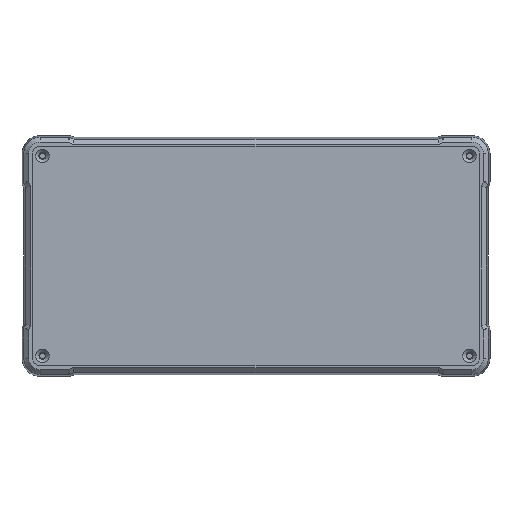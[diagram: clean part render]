
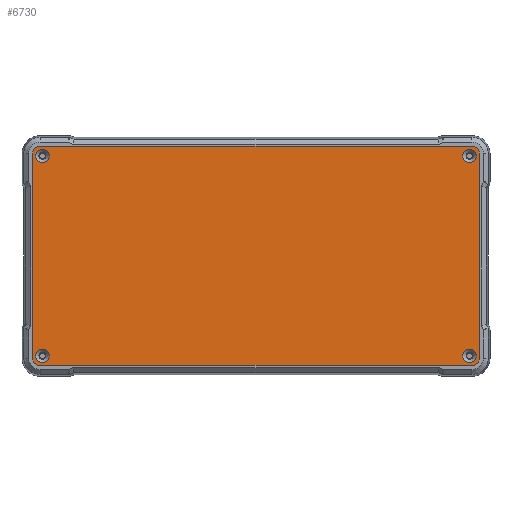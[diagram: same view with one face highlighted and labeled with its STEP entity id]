
A CAD part, top view. The second image highlights one B-rep face of the part: STEP entity #6730.
In plain terms, the highlighted planar face has unit normal (0, 0, 1).
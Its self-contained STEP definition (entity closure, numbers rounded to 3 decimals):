
#133=FACE_BOUND('',#1012,.T.);
#134=FACE_BOUND('',#1013,.T.);
#135=FACE_BOUND('',#1014,.T.);
#136=FACE_BOUND('',#1015,.T.);
#232=PLANE('',#7389);
#620=FACE_OUTER_BOUND('',#1011,.T.);
#1011=EDGE_LOOP('',(#5220,#5221,#5222,#5223,#5224,#5225,#5226,#5227));
#1012=EDGE_LOOP('',(#5228,#5229));
#1013=EDGE_LOOP('',(#5230,#5231));
#1014=EDGE_LOOP('',(#5232,#5233));
#1015=EDGE_LOOP('',(#5234,#5235));
#1503=LINE('',#10849,#2100);
#1506=LINE('',#10857,#2103);
#1509=LINE('',#10865,#2106);
#1512=LINE('',#10872,#2109);
#2100=VECTOR('',#8683,1000.);
#2103=VECTOR('',#8692,1000.);
#2106=VECTOR('',#8701,1000.);
#2109=VECTOR('',#8710,1000.);
#2555=CIRCLE('',#7127,3.);
#2556=CIRCLE('',#7128,3.);
#2557=CIRCLE('',#7130,3.);
#2558=CIRCLE('',#7131,3.);
#2559=CIRCLE('',#7133,3.);
#2560=CIRCLE('',#7134,3.);
#2561=CIRCLE('',#7136,3.);
#2562=CIRCLE('',#7137,3.);
#2707=CIRCLE('',#7378,3.);
#2708=CIRCLE('',#7381,3.);
#2709=CIRCLE('',#7384,3.);
#2710=CIRCLE('',#7387,3.);
#2939=VERTEX_POINT('',#10199);
#2940=VERTEX_POINT('',#10201);
#2941=VERTEX_POINT('',#10205);
#2942=VERTEX_POINT('',#10207);
#2943=VERTEX_POINT('',#10211);
#2944=VERTEX_POINT('',#10213);
#2945=VERTEX_POINT('',#10217);
#2946=VERTEX_POINT('',#10219);
#3163=VERTEX_POINT('',#10842);
#3164=VERTEX_POINT('',#10844);
#3165=VERTEX_POINT('',#10848);
#3166=VERTEX_POINT('',#10852);
#3167=VERTEX_POINT('',#10856);
#3168=VERTEX_POINT('',#10860);
#3169=VERTEX_POINT('',#10864);
#3170=VERTEX_POINT('',#10868);
#3620=EDGE_CURVE('',#2939,#2940,#2555,.T.);
#3621=EDGE_CURVE('',#2940,#2939,#2556,.T.);
#3623=EDGE_CURVE('',#2941,#2942,#2557,.T.);
#3624=EDGE_CURVE('',#2942,#2941,#2558,.T.);
#3626=EDGE_CURVE('',#2943,#2944,#2559,.T.);
#3627=EDGE_CURVE('',#2944,#2943,#2560,.T.);
#3629=EDGE_CURVE('',#2945,#2946,#2561,.T.);
#3630=EDGE_CURVE('',#2946,#2945,#2562,.T.);
#3940=EDGE_CURVE('',#3164,#3163,#2707,.T.);
#3942=EDGE_CURVE('',#3165,#3164,#1503,.T.);
#3944=EDGE_CURVE('',#3165,#3166,#2708,.T.);
#3946=EDGE_CURVE('',#3167,#3166,#1506,.T.);
#3948=EDGE_CURVE('',#3168,#3167,#2709,.T.);
#3950=EDGE_CURVE('',#3169,#3168,#1509,.T.);
#3952=EDGE_CURVE('',#3169,#3170,#2710,.T.);
#3954=EDGE_CURVE('',#3163,#3170,#1512,.T.);
#5220=ORIENTED_EDGE('',*,*,#3940,.T.);
#5221=ORIENTED_EDGE('',*,*,#3954,.T.);
#5222=ORIENTED_EDGE('',*,*,#3952,.F.);
#5223=ORIENTED_EDGE('',*,*,#3950,.T.);
#5224=ORIENTED_EDGE('',*,*,#3948,.T.);
#5225=ORIENTED_EDGE('',*,*,#3946,.T.);
#5226=ORIENTED_EDGE('',*,*,#3944,.F.);
#5227=ORIENTED_EDGE('',*,*,#3942,.T.);
#5228=ORIENTED_EDGE('',*,*,#3621,.F.);
#5229=ORIENTED_EDGE('',*,*,#3620,.F.);
#5230=ORIENTED_EDGE('',*,*,#3624,.F.);
#5231=ORIENTED_EDGE('',*,*,#3623,.F.);
#5232=ORIENTED_EDGE('',*,*,#3627,.F.);
#5233=ORIENTED_EDGE('',*,*,#3626,.F.);
#5234=ORIENTED_EDGE('',*,*,#3630,.F.);
#5235=ORIENTED_EDGE('',*,*,#3629,.F.);
#6730=ADVANCED_FACE('',(#620,#133,#134,#135,#136),#232,.T.);
#7127=AXIS2_PLACEMENT_3D('',#10202,#8008,#8009);
#7128=AXIS2_PLACEMENT_3D('',#10203,#8010,#8011);
#7130=AXIS2_PLACEMENT_3D('',#10208,#8015,#8016);
#7131=AXIS2_PLACEMENT_3D('',#10209,#8017,#8018);
#7133=AXIS2_PLACEMENT_3D('',#10214,#8022,#8023);
#7134=AXIS2_PLACEMENT_3D('',#10215,#8024,#8025);
#7136=AXIS2_PLACEMENT_3D('',#10220,#8029,#8030);
#7137=AXIS2_PLACEMENT_3D('',#10221,#8031,#8032);
#7378=AXIS2_PLACEMENT_3D('',#10845,#8678,#8679);
#7381=AXIS2_PLACEMENT_3D('',#10853,#8687,#8688);
#7384=AXIS2_PLACEMENT_3D('',#10861,#8696,#8697);
#7387=AXIS2_PLACEMENT_3D('',#10869,#8705,#8706);
#7389=AXIS2_PLACEMENT_3D('',#10873,#8711,#8712);
#8008=DIRECTION('center_axis',(0.,0.,1.));
#8009=DIRECTION('ref_axis',(-1.,0.,0.));
#8010=DIRECTION('center_axis',(0.,0.,1.));
#8011=DIRECTION('ref_axis',(-1.,0.,0.));
#8015=DIRECTION('center_axis',(0.,0.,1.));
#8016=DIRECTION('ref_axis',(1.,0.,0.));
#8017=DIRECTION('center_axis',(0.,0.,1.));
#8018=DIRECTION('ref_axis',(1.,0.,0.));
#8022=DIRECTION('center_axis',(0.,0.,1.));
#8023=DIRECTION('ref_axis',(-1.,0.,0.));
#8024=DIRECTION('center_axis',(0.,0.,1.));
#8025=DIRECTION('ref_axis',(-1.,0.,0.));
#8029=DIRECTION('center_axis',(0.,0.,1.));
#8030=DIRECTION('ref_axis',(1.,0.,0.));
#8031=DIRECTION('center_axis',(0.,0.,1.));
#8032=DIRECTION('ref_axis',(1.,0.,0.));
#8678=DIRECTION('center_axis',(0.,0.,1.));
#8679=DIRECTION('ref_axis',(1.,0.,0.));
#8683=DIRECTION('',(-1.,0.,0.));
#8687=DIRECTION('center_axis',(0.,0.,-1.));
#8688=DIRECTION('ref_axis',(-1.,0.,0.));
#8692=DIRECTION('',(0.,1.,0.));
#8696=DIRECTION('center_axis',(0.,0.,1.));
#8697=DIRECTION('ref_axis',(1.,0.,0.));
#8701=DIRECTION('',(1.,0.,0.));
#8705=DIRECTION('center_axis',(0.,0.,-1.));
#8706=DIRECTION('ref_axis',(-1.,0.,0.));
#8710=DIRECTION('',(0.,-1.,0.));
#8711=DIRECTION('center_axis',(0.,0.,1.));
#8712=DIRECTION('ref_axis',(1.,0.,0.));
#10199=CARTESIAN_POINT('',(-97.,-44.,19.6));
#10201=CARTESIAN_POINT('',(-91.,-44.,19.6));
#10202=CARTESIAN_POINT('Origin',(-94.,-44.,19.6));
#10203=CARTESIAN_POINT('Origin',(-94.,-44.,19.6));
#10205=CARTESIAN_POINT('',(91.,-44.,19.6));
#10207=CARTESIAN_POINT('',(97.,-44.,19.6));
#10208=CARTESIAN_POINT('Origin',(94.,-44.,19.6));
#10209=CARTESIAN_POINT('Origin',(94.,-44.,19.6));
#10211=CARTESIAN_POINT('',(91.,44.,19.6));
#10213=CARTESIAN_POINT('',(97.,44.,19.6));
#10214=CARTESIAN_POINT('Origin',(94.,44.,19.6));
#10215=CARTESIAN_POINT('Origin',(94.,44.,19.6));
#10217=CARTESIAN_POINT('',(-97.,44.,19.6));
#10219=CARTESIAN_POINT('',(-91.,44.,19.6));
#10220=CARTESIAN_POINT('Origin',(-94.,44.,19.6));
#10221=CARTESIAN_POINT('Origin',(-94.,44.,19.6));
#10842=CARTESIAN_POINT('',(-98.233,45.233,19.6));
#10844=CARTESIAN_POINT('',(-95.233,48.233,19.6));
#10845=CARTESIAN_POINT('Origin',(-95.233,45.233,19.6));
#10848=CARTESIAN_POINT('',(95.233,48.233,19.6));
#10849=CARTESIAN_POINT('',(95.233,48.233,19.6));
#10852=CARTESIAN_POINT('',(98.233,45.233,19.6));
#10853=CARTESIAN_POINT('Origin',(95.233,45.233,19.6));
#10856=CARTESIAN_POINT('',(98.233,-45.233,19.6));
#10857=CARTESIAN_POINT('',(98.233,-45.233,19.6));
#10860=CARTESIAN_POINT('',(95.233,-48.233,19.6));
#10861=CARTESIAN_POINT('Origin',(95.233,-45.233,19.6));
#10864=CARTESIAN_POINT('',(-95.233,-48.233,19.6));
#10865=CARTESIAN_POINT('',(-95.233,-48.233,19.6));
#10868=CARTESIAN_POINT('',(-98.233,-45.233,19.6));
#10869=CARTESIAN_POINT('Origin',(-95.233,-45.233,19.6));
#10872=CARTESIAN_POINT('',(-98.233,45.233,19.6));
#10873=CARTESIAN_POINT('Origin',(-95.233,45.233,19.6));
